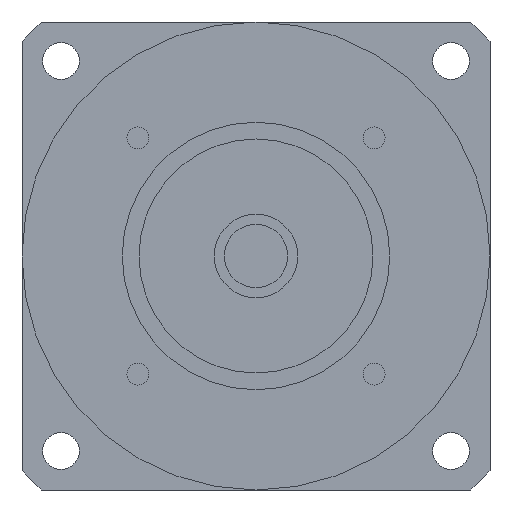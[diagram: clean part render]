
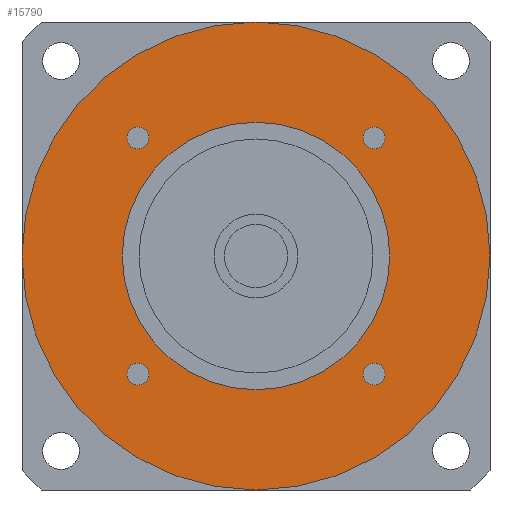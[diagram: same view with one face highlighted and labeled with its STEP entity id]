
A CAD part, left-side view. The second image highlights one B-rep face of the part: STEP entity #15790.
In plain terms, the highlighted planar face has unit normal (-1, 0, 0) as drawn and (0, 0, -1) by its records, which use the part's own axes.
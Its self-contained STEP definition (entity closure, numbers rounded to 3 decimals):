
#14670=CARTESIAN_POINT('',(70.,0.,-59.701));
#14680=VERTEX_POINT('',#14670);
#14710=CARTESIAN_POINT('',(0.,0.,
-59.701));
#14720=DIRECTION('',(0.,0.,-1.));
#14730=DIRECTION('',(-1.,0.,0.));
#14740=AXIS2_PLACEMENT_3D('',#14710,#14720,#14730);
#14750=CIRCLE('',#14740,70.);
#14760=CARTESIAN_POINT('',(-70.,0.,-59.701));
#14770=VERTEX_POINT('',#14760);
#14780=EDGE_CURVE('',#14680,#14770,#14750,.T.);
#14900=CARTESIAN_POINT('',(0.,0.,
-59.701));
#14910=DIRECTION('',(0.,0.,-1.));
#14920=DIRECTION('',(1.,0.,0.));
#14930=AXIS2_PLACEMENT_3D('',#14900,#14910,#14920);
#14940=PLANE('',#14930);
#14950=CARTESIAN_POINT('',(35.355,-35.355,-59.701));
#14960=DIRECTION('',(0.,0.,-1.));
#14970=DIRECTION('',(1.,0.,0.));
#14980=AXIS2_PLACEMENT_3D('',#14950,#14960,#14970);
#14990=CIRCLE('',#14980,3.25);
#15000=CARTESIAN_POINT('',(38.605,-35.355,-59.701));
#15010=VERTEX_POINT('',#15000);
#15020=CARTESIAN_POINT('',(32.105,-35.355,-59.701));
#15030=VERTEX_POINT('',#15020);
#15040=EDGE_CURVE('',#15010,#15030,#14990,.T.);
#15050=ORIENTED_EDGE('',*,*,#15040,.F.);
#15060=EDGE_CURVE('',#15030,#15010,#14990,.T.);
#15070=ORIENTED_EDGE('',*,*,#15060,.F.);
#15080=EDGE_LOOP('',(#15070,#15050));
#15090=FACE_BOUND('',#15080,.T.);
#15100=CARTESIAN_POINT('',(35.355,35.355,-59.701));
#15110=DIRECTION('',(0.,0.,-1.));
#15120=DIRECTION('',(0.,1.,0.));
#15130=AXIS2_PLACEMENT_3D('',#15100,#15110,#15120);
#15140=CIRCLE('',#15130,3.25);
#15150=CARTESIAN_POINT('',(35.355,38.605,-59.701));
#15160=VERTEX_POINT('',#15150);
#15170=CARTESIAN_POINT('',(35.355,32.105,-59.701));
#15180=VERTEX_POINT('',#15170);
#15190=EDGE_CURVE('',#15160,#15180,#15140,.T.);
#15200=ORIENTED_EDGE('',*,*,#15190,.F.);
#15210=EDGE_CURVE('',#15180,#15160,#15140,.T.);
#15220=ORIENTED_EDGE('',*,*,#15210,.F.);
#15230=EDGE_LOOP('',(#15220,#15200));
#15240=FACE_BOUND('',#15230,.T.);
#15250=CARTESIAN_POINT('',(-35.355,35.355,-59.701));
#15260=DIRECTION('',(0.,0.,-1.));
#15270=DIRECTION('',(-1.,0.,0.));
#15280=AXIS2_PLACEMENT_3D('',#15250,#15260,#15270);
#15290=CIRCLE('',#15280,3.25);
#15300=CARTESIAN_POINT('',(-38.605,35.355,-59.701));
#15310=VERTEX_POINT('',#15300);
#15320=CARTESIAN_POINT('',(-32.105,35.355,-59.701));
#15330=VERTEX_POINT('',#15320);
#15340=EDGE_CURVE('',#15310,#15330,#15290,.T.);
#15350=ORIENTED_EDGE('',*,*,#15340,.F.);
#15360=EDGE_CURVE('',#15330,#15310,#15290,.T.);
#15370=ORIENTED_EDGE('',*,*,#15360,.F.);
#15380=EDGE_LOOP('',(#15370,#15350));
#15390=FACE_BOUND('',#15380,.T.);
#15400=CARTESIAN_POINT('',(-35.355,-35.355,-59.701))
;
#15410=DIRECTION('',(0.,0.,-1.));
#15420=DIRECTION('',(0.,-1.,0.));
#15430=AXIS2_PLACEMENT_3D('',#15400,#15410,#15420);
#15440=CIRCLE('',#15430,3.25);
#15450=CARTESIAN_POINT('',(-35.355,-38.605,-59.701))
;
#15460=VERTEX_POINT('',#15450);
#15470=CARTESIAN_POINT('',(-35.355,-32.105,-59.701))
;
#15480=VERTEX_POINT('',#15470);
#15490=EDGE_CURVE('',#15460,#15480,#15440,.T.);
#15500=ORIENTED_EDGE('',*,*,#15490,.F.);
#15510=EDGE_CURVE('',#15480,#15460,#15440,.T.);
#15520=ORIENTED_EDGE('',*,*,#15510,.F.);
#15530=EDGE_LOOP('',(#15520,#15500));
#15540=FACE_BOUND('',#15530,.T.);
#15550=CARTESIAN_POINT('',(0.,0.,
-59.701));
#15560=DIRECTION('',(0.,0.,1.));
#15570=DIRECTION('',(0.,1.,0.));
#15580=AXIS2_PLACEMENT_3D('',#15550,#15560,#15570);
#15590=CIRCLE('',#15580,40.);
#15600=CARTESIAN_POINT('',(-40.,0.,-59.701));
#15610=VERTEX_POINT('',#15600);
#15620=CARTESIAN_POINT('',(40.,0.,-59.701));
#15630=VERTEX_POINT('',#15620);
#15640=EDGE_CURVE('',#15610,#15630,#15590,.T.);
#15650=ORIENTED_EDGE('',*,*,#15640,.T.);
#15660=CARTESIAN_POINT('',(0.,40.,-59.701));
#15670=VERTEX_POINT('',#15660);
#15680=EDGE_CURVE('',#15670,#15610,#15590,.T.);
#15690=ORIENTED_EDGE('',*,*,#15680,.T.);
#15700=EDGE_CURVE('',#15630,#15670,#15590,.T.);
#15710=ORIENTED_EDGE('',*,*,#15700,.T.);
#15720=EDGE_LOOP('',(#15710,#15690,#15650));
#15730=FACE_BOUND('',#15720,.T.);
#15740=EDGE_CURVE('',#14770,#14680,#14750,.T.);
#15750=ORIENTED_EDGE('',*,*,#15740,.T.);
#15760=ORIENTED_EDGE('',*,*,#14780,.T.);
#15770=EDGE_LOOP('',(#15760,#15750));
#15780=FACE_OUTER_BOUND('',#15770,.T.);
#15790=ADVANCED_FACE('',(#15090,#15240,#15390,#15540,#15730,#15780),
#14940,.T.);
